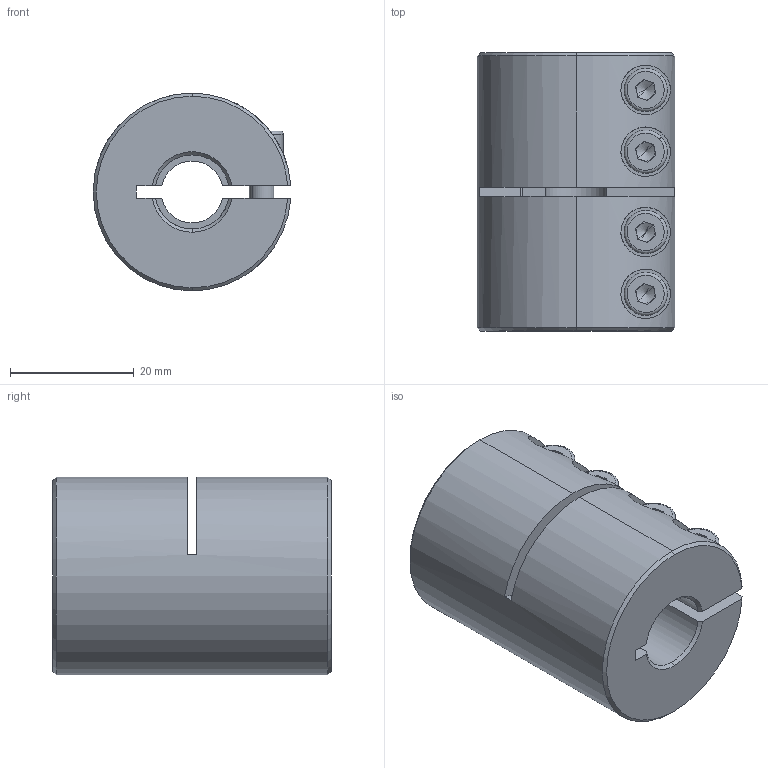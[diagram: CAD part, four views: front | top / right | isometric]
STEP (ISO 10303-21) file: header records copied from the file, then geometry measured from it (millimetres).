
FILE_DESCRIPTION (( 'STEP AP214' ), '1' );
FILE_NAME ('LL-B-D32L45-10-12½¨Ä£.STEP', '2022-07-21T07:08:10', ( '' ), ( '' ), 'SwSTEP 2.0', 'SolidWorks 2022', '' );
FILE_SCHEMA (( 'AUTOMOTIVE_DESIGN' ));
Length unit declared in the file: millimetre
Products named in the file (1): LL-B-D32L45-10-12膘耀
Bounding box: 31.97 x 45 x 32 mm (x, y, z)
Volume: 29455.8 mm3; surface area: 10791.2 mm2
Topology: 1 solids, 1 shells, 193 faces, 492 edges, 309 vertices
Faces by surface type: plane 88, cylinder 77, cone 20, torus 8
Entity records: 6357 total; most frequent: CARTESIAN_POINT 1583, DIRECTION 1037, ORIENTED_EDGE 968, EDGE_CURVE 484, AXIS2_PLACEMENT_3D 403, VERTEX_POINT 309, LINE 231, VECTOR 231
